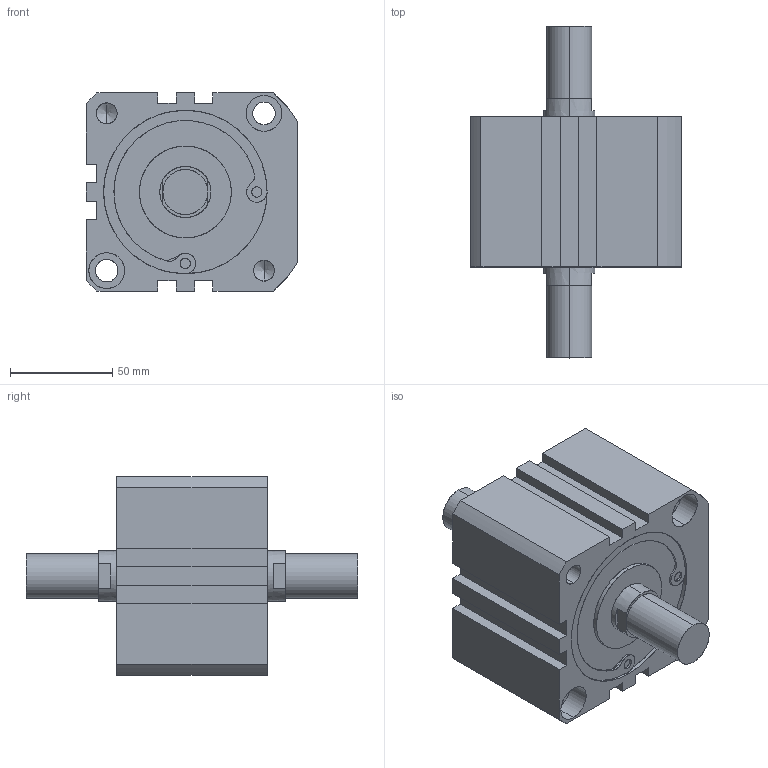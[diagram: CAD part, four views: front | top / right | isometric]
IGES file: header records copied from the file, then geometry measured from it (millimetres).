
Start section: SolidWorks IGES file using analytic representation for surfaces
Global section: file name: C:\Users\Toshiba\Desktop\XC#M7-80D-10.IGS; native system: SolidWorks 2014; preprocessor: SolidWorks 2014; author: Toshiba; date: 160523.170517; units: millimetre
Bounding box: 103.5 x 162.5 x 97 mm (x, y, z)
Surface area: 70630.4 mm2 (no closed solid volume)
Topology: 0 solids, 0 shells, 142 faces, 2698 edges, 2686 vertices
Faces by surface type: revolution 82, bspline 60
